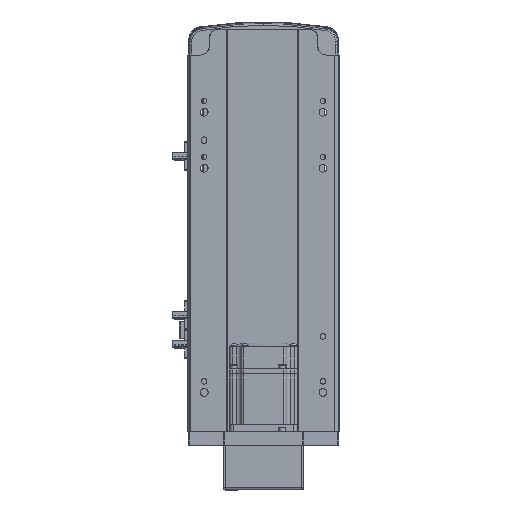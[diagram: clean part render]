
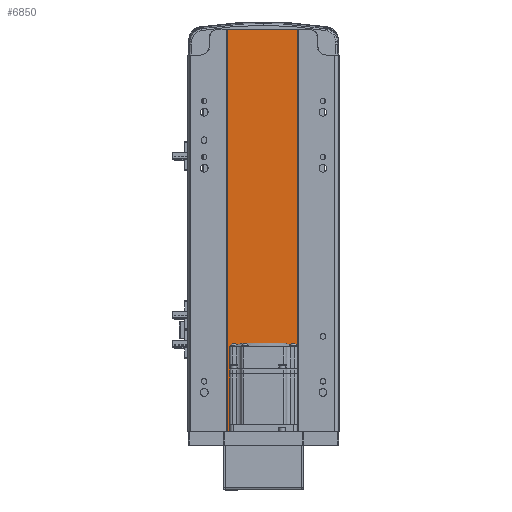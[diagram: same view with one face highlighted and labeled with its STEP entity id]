
A CAD part, front view. The second image highlights one B-rep face of the part: STEP entity #6850.
In plain terms, the highlighted planar face has unit normal (0, -1, 0).
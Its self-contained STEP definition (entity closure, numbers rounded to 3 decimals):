
#219 = ORIENTED_EDGE ( 'NONE', *, *, #27831, .F. ) ;
#874 = VECTOR ( 'NONE', #40486, 1000. ) ;
#4043 = EDGE_CURVE ( 'NONE', #7609, #12905, #45024, .T. ) ;
#4138 = VECTOR ( 'NONE', #17226, 1000. ) ;
#6850 = ADVANCED_FACE ( 'NONE', ( #10824 ), #24020, .F. ) ;
#7609 = VERTEX_POINT ( 'NONE', #24420 ) ;
#10824 = FACE_OUTER_BOUND ( 'NONE', #47933, .T. ) ;
#12905 = VERTEX_POINT ( 'NONE', #43406 ) ;
#13576 = EDGE_CURVE ( 'NONE', #18961, #43661, #23882, .T. ) ;
#14498 = LINE ( 'NONE', #53035, #874 ) ;
#17226 = DIRECTION ( 'NONE',  ( 1., 0., 0. ) ) ;
#17981 = VECTOR ( 'NONE', #37563, 1000. ) ;
#18961 = VERTEX_POINT ( 'NONE', #20007 ) ;
#19902 = AXIS2_PLACEMENT_3D ( 'NONE', #46498, #37611, #37412 ) ;
#20007 = CARTESIAN_POINT ( 'NONE',  ( -32., 1., 359. ) ) ;
#20657 = ORIENTED_EDGE ( 'NONE', *, *, #28646, .T. ) ;
#21776 = CARTESIAN_POINT ( 'NONE',  ( -32., 1., 0. ) ) ;
#23882 = LINE ( 'NONE', #30406, #47731 ) ;
#24020 = PLANE ( 'NONE',  #19902 ) ;
#24420 = CARTESIAN_POINT ( 'NONE',  ( -32., 1., 0. ) ) ;
#26485 = CARTESIAN_POINT ( 'NONE',  ( 30., 1., 359. ) ) ;
#27831 = EDGE_CURVE ( 'NONE', #43661, #12905, #43916, .T. ) ;
#28646 = EDGE_CURVE ( 'NONE', #18961, #7609, #14498, .T. ) ;
#29334 = ORIENTED_EDGE ( 'NONE', *, *, #13576, .F. ) ;
#30406 = CARTESIAN_POINT ( 'NONE',  ( -32., 1., 359. ) ) ;
#37412 = DIRECTION ( 'NONE',  ( -1., 0., 0. ) ) ;
#37563 = DIRECTION ( 'NONE',  ( 0., 0., -1. ) ) ;
#37611 = DIRECTION ( 'NONE',  ( 0., 1., 0. ) ) ;
#40486 = DIRECTION ( 'NONE',  ( 0., 0., -1. ) ) ;
#43406 = CARTESIAN_POINT ( 'NONE',  ( 30., 1., 0. ) ) ;
#43502 = ORIENTED_EDGE ( 'NONE', *, *, #4043, .T. ) ;
#43661 = VERTEX_POINT ( 'NONE', #26485 ) ;
#43916 = LINE ( 'NONE', #46838, #17981 ) ;
#45024 = LINE ( 'NONE', #21776, #4138 ) ;
#46498 = CARTESIAN_POINT ( 'NONE',  ( -32., 1., 359. ) ) ;
#46838 = CARTESIAN_POINT ( 'NONE',  ( 30., 1., 359. ) ) ;
#47731 = VECTOR ( 'NONE', #52472, 1000. ) ;
#47933 = EDGE_LOOP ( 'NONE', ( #43502, #219, #29334, #20657 ) ) ;
#52472 = DIRECTION ( 'NONE',  ( 1., 0., 0. ) ) ;
#53035 = CARTESIAN_POINT ( 'NONE',  ( -32., 1., 359. ) ) ;
